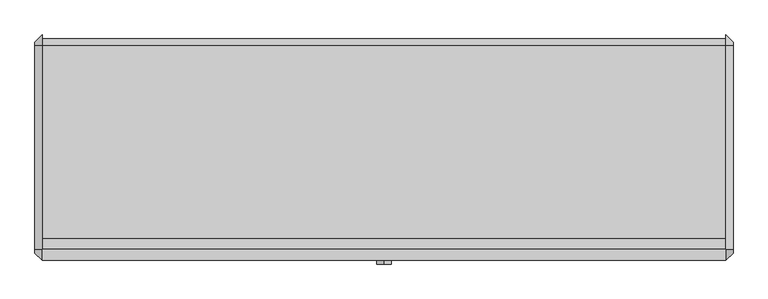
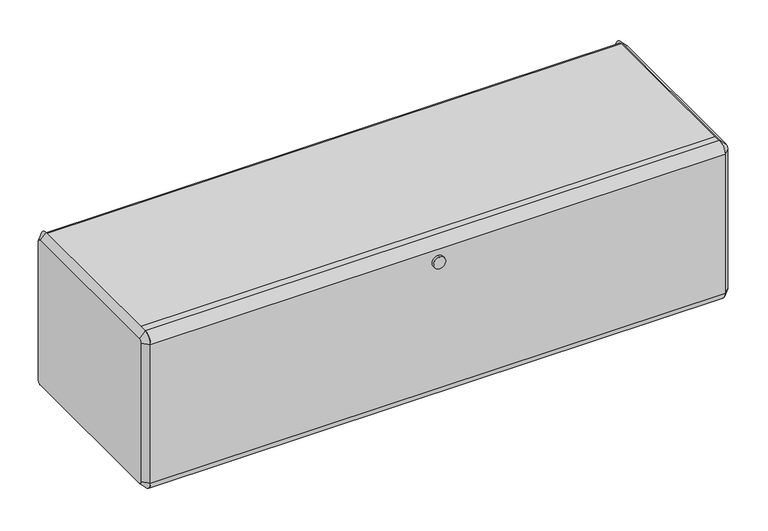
"""IFC4 building model written with IfcOpenShell, lengths in millimetres: furniture geometry."""

from ifc_helpers import new_model, si_unit, point, frame, frame_2d, origin, place, context, project, spatial, polyline, circle_curve, trimmed, segment, composite_curve, outline, extrude, source, transform, mapped, element, save
from ifc_brep_helpers import plane_surface, revolved_surface, advanced_brep


def furniture_64285d1c(model_context):
    return source(origin(), model_context, "Body", "SolidModel", [
        extrude(outline(polyline([(596.9, -146.0499879), (596.9, -165.1), (-596.9, -165.1), (-596.9, -146.0499879), (596.9, -146.0499879)])), frame((0.0, 0.0, 1212.85), z_axis=(0.0, 0.0, 1.0), x_axis=(1.0, 0.0, 0.0)), (0.0, 0.0, 1.0), 9.525),
        extrude(outline(polyline([(596.9, 190.5), (596.9, -165.1), (-596.9, -165.1), (-596.9, 190.5), (596.9, 190.5)])), frame((0.0, 0.0, 882.65), z_axis=(0.0, 0.0, 1.0), x_axis=(1.0, 0.0, 0.0)), (0.0, 0.0, 1.0), 3.175),
        extrude(outline(composite_curve([segment(polyline([(-165.1, 1222.375), (190.5, 1222.375)]), True, "CONTINUOUS"), segment(trimmed(circle_curve(frame_2d((187.8607088, 1207.2460671)), 15.3574239), [point((190.5, 1222.375))], [point((203.2, 1206.5))], False, "CARTESIAN"), True, "CONTINUOUS"), segment(polyline([(203.2, 1206.5), (197.3786043, 1206.5)]), True, "CONTINUOUS"), segment(trimmed(circle_curve(frame_2d((201.2265094, 1190.8438514)), 16.1220769), [point((197.3786043, 1206.5))], [point((190.5, 1178.8079319))], True, "CARTESIAN"), True, "CONTINUOUS"), segment(polyline([(190.5, 1178.8079319), (-165.1, 1178.8079319), (-165.1, 1222.375)]), True, "CONTINUOUS")], self_intersect=False)), frame((-596.9, 0.0, 0.0), z_axis=(1.0, 0.0, 0.0), x_axis=(0.0, 1.0, 0.0)), (0.0, 0.0, 1.0), 1193.8),
        extrude(outline(composite_curve([segment(trimmed(circle_curve(frame_2d((-165.1, 1206.5)), 19.05), [point((-184.15, 1206.5))], [point((-165.1, 1225.55))], False, "CARTESIAN"), True, "CONTINUOUS"), segment(polyline([(-165.1, 1225.55), (-165.1, 1212.85)]), True, "CONTINUOUS"), segment(trimmed(circle_curve(frame_2d((-165.1, 1206.5)), 6.35), [point((-165.1, 1212.85))], [point((-171.45, 1206.5))], True, "CARTESIAN"), True, "CONTINUOUS"), segment(polyline([(-171.45, 1206.5), (-171.45, 901.7)]), True, "CONTINUOUS"), segment(trimmed(circle_curve(frame_2d((-165.1, 901.7)), 6.35), [point((-171.45, 901.7))], [point((-165.1, 895.35))], True, "CARTESIAN"), True, "CONTINUOUS"), segment(polyline([(-165.1, 895.35), (-165.1, 882.65)]), True, "CONTINUOUS"), segment(trimmed(circle_curve(frame_2d((-165.1, 901.7)), 19.05), [point((-165.1, 882.65))], [point((-184.15, 901.7))], False, "CARTESIAN"), True, "CONTINUOUS"), segment(polyline([(-184.15, 901.7), (-184.15, 1206.5)]), True, "CONTINUOUS")], self_intersect=False)), frame((-596.9, 0.0, 0.0), z_axis=(1.0, 0.0, 0.0), x_axis=(0.0, 1.0, 0.0)), (0.0, 0.0, 1.0), 1193.8),
        extrude(outline(composite_curve([segment(trimmed(circle_curve(frame_2d((1181.0502824, 0.0)), 12.713771), [point((1168.3365114, 0.0))], [point((1193.7640535, 0.0))], False, "CARTESIAN"), True, "CONTINUOUS"), segment(trimmed(circle_curve(frame_2d((1181.0502824, 0.0)), 12.713771), [point((1193.7640535, 0.0))], [point((1168.3365114, 0.0))], False, "CARTESIAN"), True, "CONTINUOUS")], self_intersect=False)), frame((0.0, -190.5, 0.0), z_axis=(0.0, 1.0, 0.0), x_axis=(0.0, 0.0, 1.0)), (0.0, 0.0, 1.0), 6.35),
        advanced_brep(
        [(609.6, 190.5, 1212.85), (609.6, -165.1, 1212.85), (609.6, -171.45, 1206.5), (609.6, -171.45, 901.7), (609.6, -165.1, 895.35), (609.6, 190.5, 895.35), (609.6, 196.85, 901.7), (609.6, 196.85, 1206.5), (596.9, 190.5, 1225.55), (596.9, 209.55, 1206.5), (596.9, 209.55, 901.7), (596.9, 190.5, 882.65), (596.9, -165.1, 882.65), (596.9, -184.15, 901.7), (596.9, -184.15, 1206.5), (596.9, -165.1, 1225.55)],
        [
            (0, 1),
            (1, 2, circle_curve(frame((609.6, -165.1, 1206.5), z_axis=(1.0, 1.169730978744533e-12, -1.268318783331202e-12), x_axis=(1.2683206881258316e-12, 0.0, 1.0)), 6.35)),
            (2, 3),
            (3, 4, circle_curve(frame((609.6, -165.1, 901.7), z_axis=(1.0, -2.731148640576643e-12, -2.7391422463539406e-12), x_axis=(-2.7311758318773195e-12, -1.0, 0.0)), 6.35)),
            (4, 5),
            (5, 6, circle_curve(frame((609.6, 190.5, 901.7), z_axis=(1.0, -3.4852121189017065e-12, 3.47455397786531e-12), x_axis=(3.4746146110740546e-12, 0.0, -1.0)), 6.35)),
            (6, 7),
            (7, 0, circle_curve(frame((609.6, 190.5, 1206.5), z_axis=(1.0, 1.169730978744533e-12, 1.0764722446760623e-12), x_axis=(-1.1697188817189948e-12, 1.0, 0.0)), 6.35)),
            (8, 9, circle_curve(frame((596.9, 190.5, 1206.5), z_axis=(-1.0, -1.169730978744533e-12, -1.0764722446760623e-12), x_axis=(-1.1697188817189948e-12, 1.0, 0.0)), 19.05)),
            (9, 10),
            (10, 11, circle_curve(frame((596.9, 190.5, 901.7), z_axis=(-1.0, 3.4852121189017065e-12, -3.47455397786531e-12), x_axis=(3.4746146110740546e-12, 0.0, -1.0)), 19.05)),
            (11, 12),
            (12, 13, circle_curve(frame((596.9, -165.1, 901.7), z_axis=(-1.0, 2.731148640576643e-12, 2.7391422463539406e-12), x_axis=(-2.7311758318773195e-12, -1.0, 0.0)), 19.05)),
            (13, 14),
            (14, 15, circle_curve(frame((596.9, -165.1, 1206.5), z_axis=(-1.0, -1.169730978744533e-12, 1.268318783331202e-12), x_axis=(1.2683206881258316e-12, 0.0, 1.0)), 19.05)),
            (15, 8),
            (15, 1),
            (0, 8),
            (14, 2),
            (13, 3),
            (12, 4),
            (11, 5),
            (10, 6),
            (9, 7),
        ],
        [
            plane_surface(frame((609.6, 12.7, 1054.1), z_axis=(1.0, 0.0, 0.0), x_axis=(0.0, -1.0, 0.0))),
            plane_surface(frame((596.9, 12.7, 1054.1), z_axis=(-1.0, 0.0, 0.0), x_axis=(0.0, -1.0, 0.0))),
            plane_surface(frame((596.9, 12.7, 1225.55), z_axis=(0.7071067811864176, 0.0, 0.7071067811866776), x_axis=(0.0, -1.0, 0.0))),
            revolved_surface(polyline([(609.6000000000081, -165.1, 1212.849999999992), (596.9, -165.1, 1225.55)]), (615.95, -165.1, 1206.5), (-1.0, -1.169730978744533e-12, 1.268318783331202e-12)),
            plane_surface(frame((596.9, -184.15, 1054.1), z_axis=(0.7071067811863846, -0.7071067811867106, 0.0), x_axis=(0.0, 0.0, -1.0))),
            revolved_surface(polyline([(609.6, -171.44999999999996, 901.7), (596.8999999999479, -184.15000000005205, 901.7)]), (615.95, -165.1, 901.7), (-1.0, 2.731148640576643e-12, 2.7391422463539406e-12)),
            plane_surface(frame((596.9, 12.7, 882.65), z_axis=(0.7071067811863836, 0.0, -0.7071067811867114), x_axis=(0.0, 1.0, 0.0))),
            revolved_surface(polyline([(609.6000000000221, 190.5, 895.3500000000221), (596.8999999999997, 190.5, 882.6499999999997)]), (615.95, 190.5, 901.7), (-1.0, 3.4852121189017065e-12, -3.47455397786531e-12)),
            plane_surface(frame((596.9, 209.55, 1054.1), z_axis=(0.7071067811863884, 0.7071067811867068, 0.0), x_axis=(0.0, 0.0, 1.0))),
            revolved_surface(polyline([(609.6, 196.85, 1206.5), (596.8999999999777, 209.5500000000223, 1206.5)]), (615.95, 190.5, 1206.5), (-1.0, -1.169730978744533e-12, -1.0764722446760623e-12)),
        ],
        [
            (0, [[1, 2, 3, 4, 5, 6, 7, 8]]),
            (1, [[9, 10, 11, 12, 13, 14, 15, 16]]),
            (2, [[-16, 17, -1, 18]]),
            (3, [[-15, 19, -2, -17]]),
            (4, [[-14, 20, -3, -19]]),
            (5, [[-13, 21, -4, -20]]),
            (6, [[-12, 22, -5, -21]]),
            (7, [[-11, 23, -6, -22]]),
            (8, [[-10, 24, -7, -23]]),
            (9, [[-9, -18, -8, -24]]),
        ],
    ),
        advanced_brep(
        [(-609.6, -165.1, 1212.85), (-609.6, 190.5, 1212.85), (-609.6, 196.85, 1206.5), (-609.6, 196.85, 901.7), (-609.6, 190.5, 895.35), (-609.6, -165.1, 895.35), (-609.6, -171.45, 901.7), (-609.6, -171.45, 1206.5), (-596.9, -165.1, 1225.55), (-596.9, -184.15, 1206.5), (-596.9, -184.15, 901.7), (-596.9, -165.1, 882.65), (-596.9, 190.5, 882.65), (-596.9, 209.55, 901.7), (-596.9, 209.55, 1206.5), (-596.9, 190.5, 1225.55)],
        [
            (0, 1),
            (1, 2, circle_curve(frame((-609.6, 190.5, 1206.5), z_axis=(-1.0, -1.945110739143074e-12, -1.8651746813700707e-12), x_axis=(-1.865112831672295e-12, 0.0, 1.0)), 6.35)),
            (2, 3),
            (3, 4, circle_curve(frame((-609.6, 190.5, 901.7), z_axis=(-1.0, 0.0, 0.0), x_axis=(0.0, 1.0, 0.0)), 6.35)),
            (4, 5),
            (5, 6, circle_curve(frame((-609.6, -165.1, 901.7), z_axis=(-1.0, 0.0, 0.0), x_axis=(0.0, 0.0, -1.0)), 6.35)),
            (6, 7),
            (7, 0, circle_curve(frame((-609.6, -165.1, 1206.5), z_axis=(-1.0, -1.9397816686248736e-12, 2.0250467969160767e-12), x_axis=(1.9398492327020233e-12, -1.0, 0.0)), 6.35)),
            (8, 9, circle_curve(frame((-596.9, -165.1, 1206.5), z_axis=(1.0, 1.9397816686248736e-12, -2.0250467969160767e-12), x_axis=(1.9398492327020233e-12, -1.0, 0.0)), 19.05)),
            (9, 10),
            (10, 11, circle_curve(frame((-596.9, -165.1, 901.7), z_axis=(1.0, 0.0, 0.0), x_axis=(0.0, 0.0, -1.0)), 19.05)),
            (11, 12),
            (12, 13, circle_curve(frame((-596.9, 190.5, 901.7), z_axis=(1.0, 0.0, 0.0), x_axis=(0.0, 1.0, 0.0)), 19.05)),
            (13, 14),
            (14, 15, circle_curve(frame((-596.9, 190.5, 1206.5), z_axis=(1.0, 1.945110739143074e-12, 1.8651746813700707e-12), x_axis=(-1.865112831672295e-12, 0.0, 1.0)), 19.05)),
            (15, 8),
            (15, 1),
            (0, 8),
            (14, 2),
            (13, 3),
            (12, 4),
            (11, 5),
            (10, 6),
            (9, 7),
        ],
        [
            plane_surface(frame((-609.6, 12.7, 1054.1), z_axis=(-1.0, 0.0, 0.0), x_axis=(0.0, -1.0, 0.0))),
            plane_surface(frame((-596.9, 12.7, 1054.1), z_axis=(1.0, 0.0, 0.0), x_axis=(0.0, -1.0, 0.0))),
            plane_surface(frame((-596.9, 12.7, 1225.55), z_axis=(-0.7071067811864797, 0.0, 0.7071067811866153), x_axis=(0.0, 1.0, 0.0))),
            revolved_surface(polyline([(-609.6000000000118, 190.5, 1212.849999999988), (-596.8999999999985, 190.5, 1225.5500000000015)]), (-615.95, 190.5, 1206.5), (1.0, 1.945110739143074e-12, 1.8651746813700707e-12)),
            plane_surface(frame((-596.9, 209.55, 1054.1), z_axis=(-0.7071067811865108, 0.7071067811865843, 0.0), x_axis=(0.0, 0.0, -1.0))),
            revolved_surface(polyline([(-609.6, 196.85, 901.7), (-596.9, 209.55, 901.7)]), (-615.95, 190.5, 901.7), (1.0, 0.0, 0.0)),
            plane_surface(frame((-596.9, 12.7, 882.65), z_axis=(-0.7071067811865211, 0.0, -0.7071067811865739), x_axis=(0.0, -1.0, 0.0))),
            revolved_surface(polyline([(-609.6, -165.1, 895.35), (-596.9, -165.1, 882.65)]), (-615.95, -165.1, 901.7), (1.0, 0.0, 0.0)),
            plane_surface(frame((-596.9, -184.15, 1054.1), z_axis=(-0.7071067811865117, -0.7071067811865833, 0.0), x_axis=(0.0, 0.0, 1.0))),
            revolved_surface(polyline([(-609.6000000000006, -171.44999999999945, 1206.5), (-596.899999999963, -184.15000000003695, 1206.5)]), (-615.95, -165.1, 1206.5), (1.0, 1.9397816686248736e-12, -2.0250467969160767e-12)),
        ],
        [
            (0, [[1, 2, 3, 4, 5, 6, 7, 8]]),
            (1, [[9, 10, 11, 12, 13, 14, 15, 16]]),
            (2, [[-16, 17, -1, 18]]),
            (3, [[-15, 19, -2, -17]]),
            (4, [[-14, 20, -3, -19]]),
            (5, [[-13, 21, -4, -20]]),
            (6, [[-12, 22, -5, -21]]),
            (7, [[-11, 23, -6, -22]]),
            (8, [[-10, 24, -7, -23]]),
            (9, [[-9, -18, -8, -24]]),
        ],
    ),
    ])


if __name__ == "__main__":
    model = new_model("IFC4")
    model_context = context("Model", 3, world=origin())
    ifc_project = project(units=[si_unit("LENGTHUNIT", "METRE", prefix="MILLI")], contexts=[model_context])
    site = spatial("IfcSite", under=ifc_project)
    building = spatial("IfcBuilding", under=site)
    placement = place(None, origin())
    furniture_shape = furniture_64285d1c(model_context)
    element("IfcFurniture", 1, ObjectType="HermanMiller_ActionOffice_A3121_B-StyleSuspendedLateralFile : 16\"D x 48\"W", at=placement, inside=building, context=model_context, shape_type="MappedRepresentation", body=[
        mapped(furniture_shape, transform((0.0, 0.0, 0.0), x_axis=(1.0, 0.0, 0.0), y_axis=(0.0, 1.0, 0.0), z_axis=(0.0, 0.0, 1.0))),
    ])
    save(model, "model.ifc")
